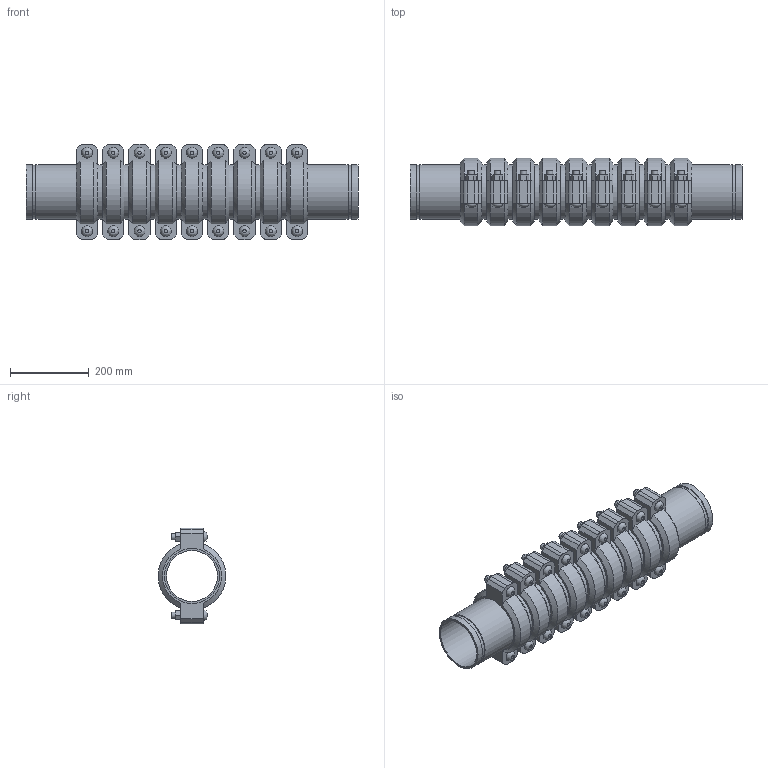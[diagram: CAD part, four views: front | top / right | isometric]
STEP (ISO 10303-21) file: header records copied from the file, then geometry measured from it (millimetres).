
FILE_DESCRIPTION(/* description */ ('VIC EXPANSION JOINT 9 COUPLINGS EXPANDED STYLE 155 (OGS)','CAx-IF Rec.Pracs.---Representation and Presentation of Product Manufacturing Information (PMI)---4.0---2014-10-13'),/* implementation_level */ '2;1');
FILE_NAME(/* name */ 'C:\Users\kkamble\AppData\Roaming\Autodesk\ApplicationPlugins\Victaulic.Temp\A90\Victaulic_IPS_Expansion Joint_Expanded_9 Couplings_Style 155 (OGS)_05.0 (139.7) (125).stp',/* time_stamp */ '2021-06-27T00:11:37+02:00',/* author */ ('kkamble'),/* organization */ ('Victaulic'),/* preprocessor_version */ 'ST-DEVELOPER v17.2',/* originating_system */ 'Autodesk Inventor 2019',/* authorisation */ '');
FILE_SCHEMA (('AP242_MANAGED_MODEL_BASED_3D_ENGINEERING_MIM_LF { 1 0 10303 442 1 1 4 }'));
Length unit declared in the file: inch
Products named in the file (4): 155-05.0 (139.7); Nipple-05.0 (139.7); Nipple-05.0 (139.7)_1; 075-05.0 (139.7)
Assembly tree (19 placements, depth 2):
  155-05.0 (139.7)
    Nipple-05.0 (139.7)  x2
    Nipple-05.0 (139.7)_1  x8
    075-05.0 (139.7)  x9
Bounding box: 844.8 x 172.14 x 243.59 mm (x, y, z)
Volume: 7318494.5 mm3; surface area: 1651463.3 mm2
Topology: 19 solids, 37 shells, 633 faces, 1497 edges, 1050 vertices
Faces by surface type: plane 384, cylinder 195, cone 36, bspline 18
Full cylindrical faces by diameter (mm): 15.875 x36, 17.424 x18, 129.388 x10, 133.35 x9, 135.484 x20, 139.7 x48
Entity records: 2865 total; most frequent: CARTESIAN_POINT 503, DIRECTION 481, ORIENTED_EDGE 386, AXIS2_PLACEMENT_3D 194, EDGE_CURVE 193, VERTEX_POINT 138, EDGE_LOOP 107, LINE 93
